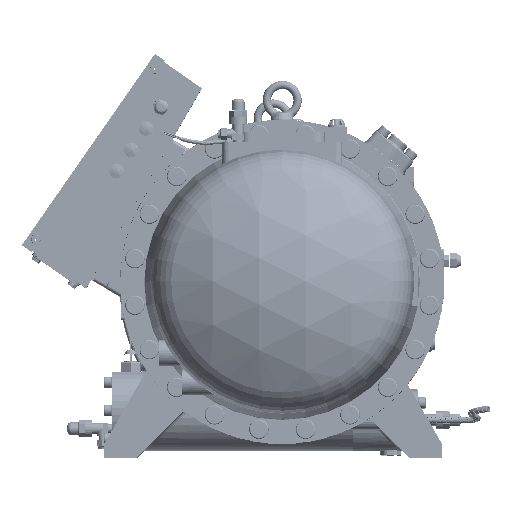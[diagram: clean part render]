
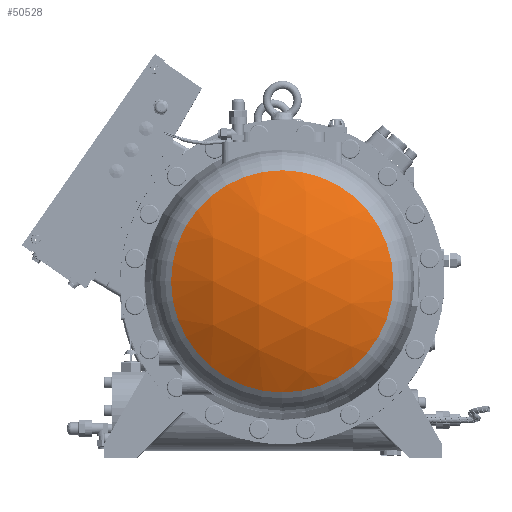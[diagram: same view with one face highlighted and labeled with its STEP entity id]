
A CAD part, top view. The second image highlights one B-rep face of the part: STEP entity #50528.
In plain terms, the highlighted spherical face has radius 319 mm.
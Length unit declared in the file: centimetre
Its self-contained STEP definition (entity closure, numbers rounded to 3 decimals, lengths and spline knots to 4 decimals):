
#1574=SPHERICAL_SURFACE('',#53469,31.9);
#12196=CIRCLE('',#53468,17.1239);
#15397=FACE_OUTER_BOUND('',#17714,.T.);
#17714=EDGE_LOOP('',(#37661));
#22011=VERTEX_POINT('',#75566);
#28942=EDGE_CURVE('',#22011,#22011,#12196,.T.);
#37661=ORIENTED_EDGE('',*,*,#28942,.F.);
#50528=ADVANCED_FACE('',(#15397),#1574,.T.);
#53468=AXIS2_PLACEMENT_3D('',#75567,#59024,#59025);
#53469=AXIS2_PLACEMENT_3D('',#75568,#59026,#59027);
#59024=DIRECTION('center_axis',(0.,0.,
-1.));
#59025=DIRECTION('ref_axis',(-1.,0.,0.));
#59026=DIRECTION('center_axis',(1.,0.,0.));
#59027=DIRECTION('ref_axis',(0.,1.,0.));
#75566=CARTESIAN_POINT('',(1.4,-15.7239,51.9643));
#75567=CARTESIAN_POINT('Origin',(1.4,1.4,51.9643));
#75568=CARTESIAN_POINT('Origin',(1.4,1.4,25.05));
